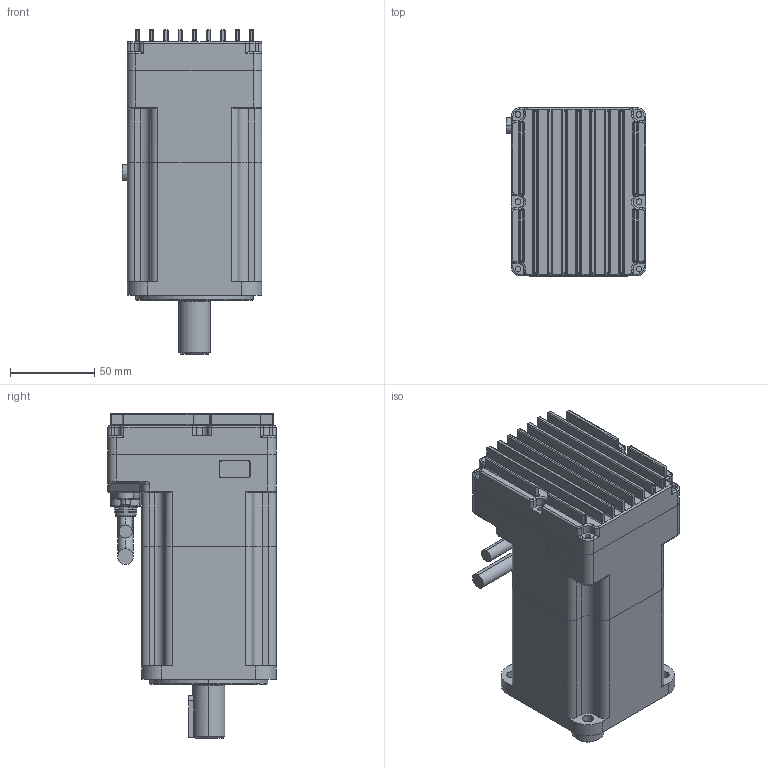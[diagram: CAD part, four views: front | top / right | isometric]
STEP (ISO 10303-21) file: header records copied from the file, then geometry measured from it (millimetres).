
FILE_DESCRIPTION((''),'2;1');
FILE_NAME('000-ISMK80-WBK-AA','2023-11-16T11:26:10',('RD0060'),(''),'CREO PARAMETRIC BY PTC INC, 2016510','CREO PARAMETRIC BY PTC INC, 2016510','');
FILE_SCHEMA(('CONFIG_CONTROL_DESIGN'));
Length unit declared in the file: millimetre
Products named in the file (1): 000-ISMK80-WBK-AA
Bounding box: 83 x 100 x 193 mm (x, y, z)
Surface area: 139149 mm2 (no closed solid volume)
Topology: 0 solids, 45 shells, 1380 faces, 3280 edges, 1892 vertices
Faces by surface type: cylinder 572, plane 393, torus 151, cone 111, sphere 95, bspline 58
Entity records: 42036 total; most frequent: CARTESIAN_POINT 10377, DIRECTION 7191, ORIENTED_EDGE 6274, EDGE_CURVE 3137, AXIS2_PLACEMENT_3D 2896, VERTEX_POINT 1892, CIRCLE 1574, EDGE_LOOP 1475
